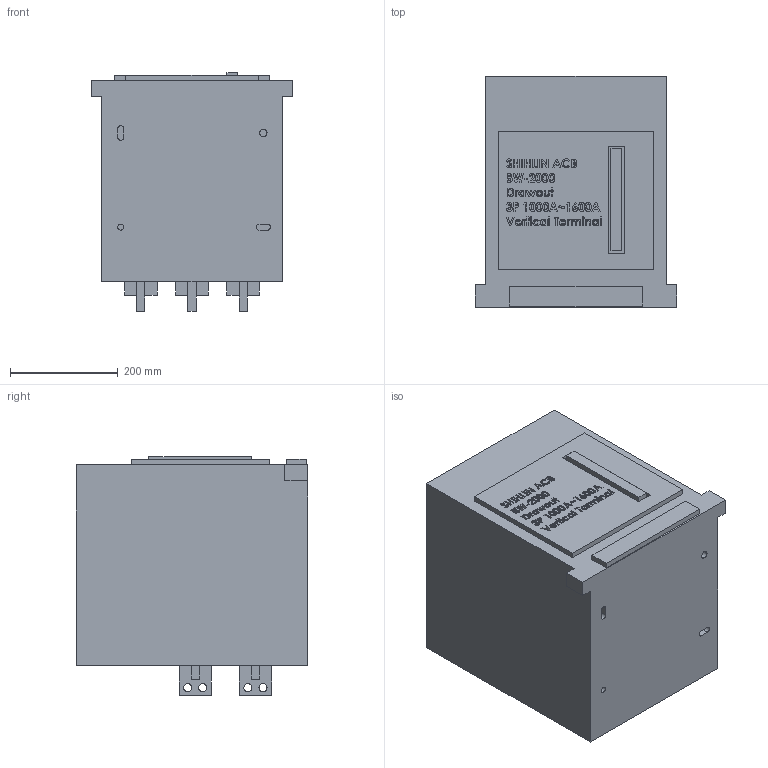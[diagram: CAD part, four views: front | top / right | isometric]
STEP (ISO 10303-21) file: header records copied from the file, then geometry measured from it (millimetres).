
FILE_DESCRIPTION (( 'STEP AP203' ), '1' );
FILE_NAME ('BW-2000-Drawout-3P-1000-1600A-Vertical Terminal.STEP', '2016-11-03T01:05:37', ( '' ), ( '' ), 'SwSTEP 2.0', 'SolidWorks 2015', '' );
FILE_SCHEMA (( 'CONFIG_CONTROL_DESIGN' ));
Length unit declared in the file: millimetre
Products named in the file (1): BW-2000-Drawout-3P-1000-1600A-Vertical Terminal
Bounding box: 375 x 430 x 443.5 mm (x, y, z)
Volume: 54999946.3 mm3; surface area: 994811 mm2
Topology: 1 solids, 1 shells, 796 faces, 2103 edges, 1402 vertices
Faces by surface type: plane 496, bspline 267, cylinder 33
Entity records: 38884 total; most frequent: CARTESIAN_POINT 20777, ORIENTED_EDGE 4206, DIRECTION 2695, EDGE_CURVE 2103, LINE 1503, VECTOR 1503, VERTEX_POINT 1402, EDGE_LOOP 913
